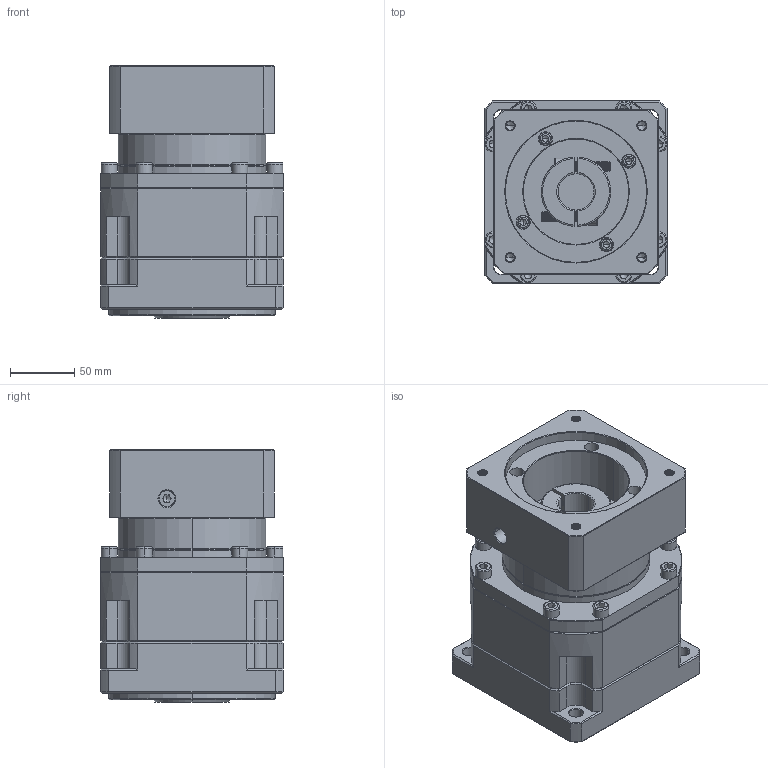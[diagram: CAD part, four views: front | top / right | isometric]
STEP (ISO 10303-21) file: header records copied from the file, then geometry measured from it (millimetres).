
FILE_DESCRIPTION (( 'STEP AP214' ), '1' );
FILE_NAME ('ZB142A-K35-L1-28-110-145-M8.step', '2023-03-17T10:48:33', ( '' ), ( '' ), 'SwSTEP 2.0', 'SolidWorks 2016', '' );
FILE_SCHEMA (( 'AUTOMOTIVE_DESIGN' ));
Length unit declared in the file: millimetre
Products named in the file (1): ZB142A-K35-L1-28-110-145-M8
Bounding box: 142 x 142 x 196.3 mm (x, y, z)
Volume: 2814601.3 mm3; surface area: 278255.8 mm2
Topology: 7 solids, 7 shells, 2221 faces, 5748 edges, 3648 vertices
Faces by surface type: plane 1011, cylinder 476, cone 375, bspline 303, torus 56
Entity records: 118360 total; most frequent: CARTESIAN_POINT 42219, ORIENTED_EDGE 11392, DIRECTION 9669, EDGE_CURVE 5696, VERTEX_POINT 3648, LINE 3535, VECTOR 3535, AXIS2_PLACEMENT_3D 3067
